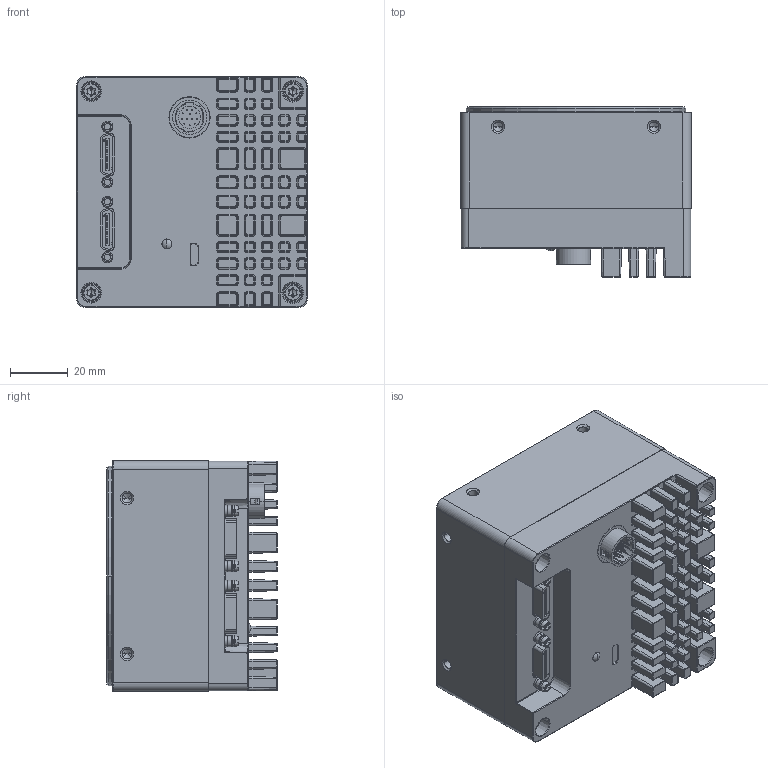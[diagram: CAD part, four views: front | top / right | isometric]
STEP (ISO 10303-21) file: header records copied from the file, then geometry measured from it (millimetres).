
FILE_DESCRIPTION((''),'2;1');
FILE_NAME('8K-CML_SW0001','2024-03-22T14:48:46',('303992'),(''),'CREO PARAMETRIC BY PTC INC, 2020184','CREO PARAMETRIC BY PTC INC, 2020184','');
FILE_SCHEMA(('CONFIG_CONTROL_DESIGN','SHAPE_APPEARANCE_LAYERS_GROUPS'));
Products named in the file (1): 8K-CML_SW0001
Bounding box: 80 x 59.05 x 80 mm (x, y, z)
Volume: 282492.5 mm3; surface area: 47053.5 mm2
Topology: 1 solids, 1 shells, 2594 faces, 6197 edges, 3671 vertices
Faces by surface type: plane 862, cylinder 707, torus 505, cone 411, bspline 105, sphere 4
Entity records: 125010 total; most frequent: CARTESIAN_POINT 26524, DIRECTION 13586, ORIENTED_EDGE 12326, PRESENTATION_STYLE_ASSIGNMENT 8700, STYLED_ITEM 6164, CURVE_STYLE 6163, EDGE_CURVE 6163, AXIS2_PLACEMENT_3D 5195
